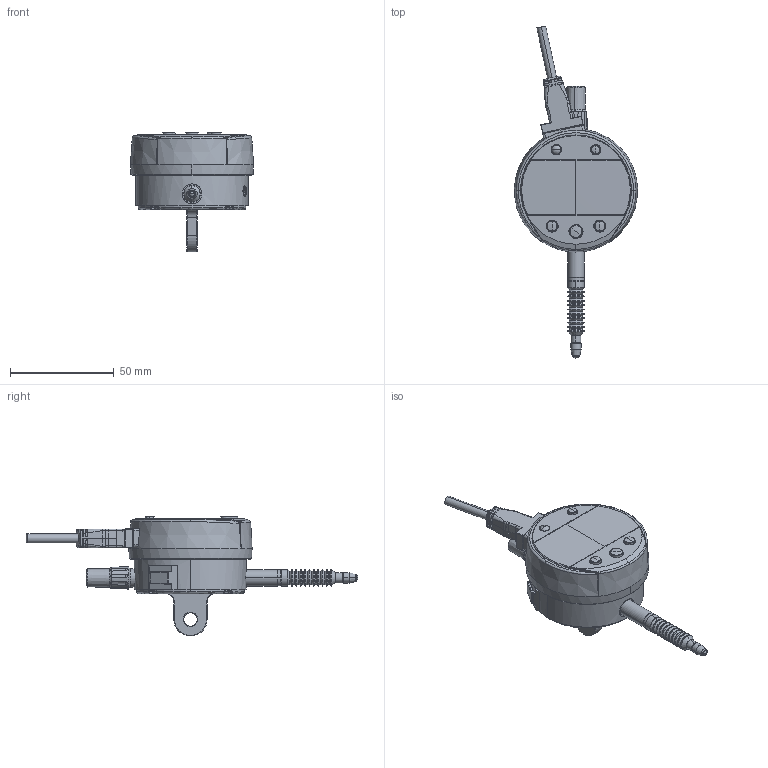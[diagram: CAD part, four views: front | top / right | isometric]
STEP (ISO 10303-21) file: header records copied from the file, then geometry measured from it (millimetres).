
FILE_DESCRIPTION(('Creo Elements/Direct Modeling STEP Export'),'2;1');
FILE_NAME('543-350_ID-C112JX.stp','2020-04-14T 8:49:24',(''),(''),'Creo Elements/Direct Modeling STEP processor for AP214 (Solid Model)','Creo Elements/Direct Modeling 18.1I 13-Aug-2016 (C) Parametric Technology GmbH','');
FILE_SCHEMA(('AUTOMOTIVE_DESIGN { 1 0 10303 214 1 1 1 1 }'));
Length unit declared in the file: millimetre
Products named in the file (1): Top
Bounding box: 59.33 x 159.89 x 57.8 mm (x, y, z)
Volume: 98527.5 mm3; surface area: 17315.1 mm2
Topology: 1 solids, 1 shells, 829 faces, 2115 edges, 1297 vertices
Faces by surface type: plane 232, cylinder 214, bspline 127, torus 120, cone 116, sphere 20
Entity records: 41070 total; most frequent: CARTESIAN_POINT 22983, ORIENTED_EDGE 4170, DIRECTION 3270, EDGE_CURVE 2085, VERTEX_POINT 1297, AXIS2_PLACEMENT_3D 1244, EDGE_LOOP 870, FACE_OUTER_BOUND 829
